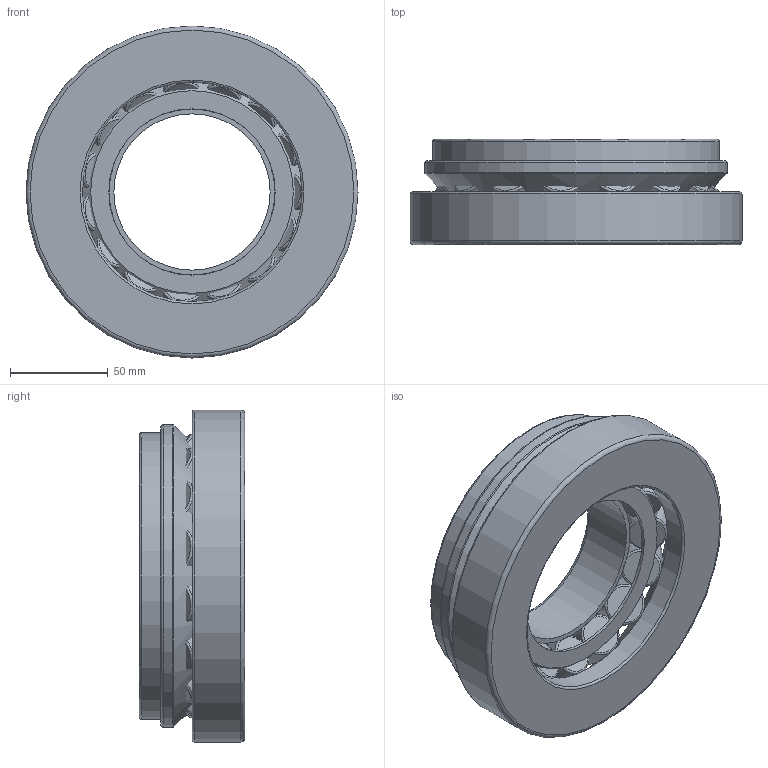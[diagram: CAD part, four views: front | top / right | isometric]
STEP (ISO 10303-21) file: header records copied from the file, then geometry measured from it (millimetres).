
FILE_DESCRIPTION(/* description */ (''),/* implementation_level */ '2;1');
FILE_NAME(/* name */ 'C:\Users\OUREHANEKD\Desktop\Ložiská\MODELY\ASL\294EJ\294--\29416EJ.stp',/* time_stamp */ '2016-09-23T12:55:15+02:00',/* author */ ('OUREHANEKD'),/* organization */ (''),/* preprocessor_version */ 'ST-DEVELOPER v15.6',/* originating_system */ 'Autodesk Inventor 2015',/* authorisation */ '');
FILE_SCHEMA (('AUTOMOTIVE_DESIGN { 1 0 10303 214 3 1 1 }'));
Length unit declared in the file: millimetre
Products named in the file (5): 29416EJ-01; 29416EJ-02; 29416EJ-kl; 29416EJ-roller; 29416EJ
Assembly tree (18 placements, depth 2):
  29416EJ
    29416EJ-01
    29416EJ-02
    29416EJ-kl
    29416EJ-roller  x15
Bounding box: 170 x 54 x 170 mm (x, y, z)
Volume: 657762.9 mm3; surface area: 166119.3 mm2
Topology: 18 solids, 18 shells, 108 faces, 197 edges, 129 vertices
Faces by surface type: plane 40, torus 38, bspline 18, cylinder 9, cone 3
Full cylindrical faces by diameter (mm): 80 x1, 85.184 x1, 112.5 x1, 146.6 x2, 151.676 x2, 154.916 x1, 170 x1
Entity records: 1169 total; most frequent: CARTESIAN_POINT 267, DIRECTION 204, AXIS2_PLACEMENT_3D 102, ORIENTED_EDGE 98, EDGE_LOOP 70, EDGE_CURVE 49, CIRCLE 45, VERTEX_POINT 45
